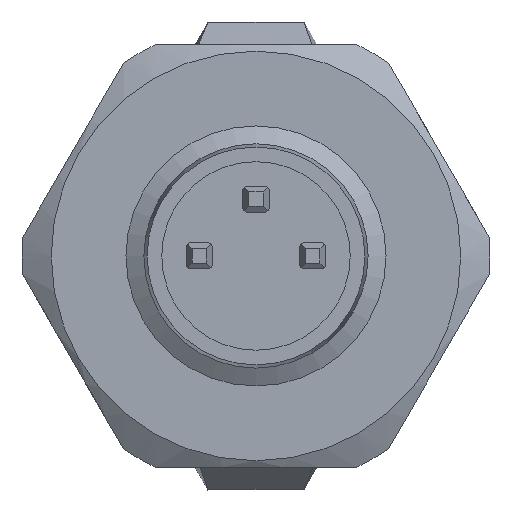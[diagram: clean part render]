
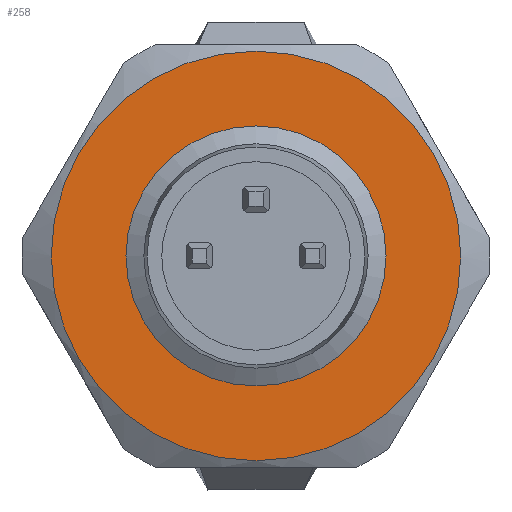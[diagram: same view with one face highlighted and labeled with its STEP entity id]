
A CAD part, left-side view. The second image highlights one B-rep face of the part: STEP entity #258.
In plain terms, the highlighted planar face has unit normal (-1, 0, 0) as drawn and (0, 1, 0) by its records, which use the part's own axes.
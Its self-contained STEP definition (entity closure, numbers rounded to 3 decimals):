
#258 = ADVANCED_FACE( '', ( #446, #447 ), #448, .T. );
#446 = FACE_BOUND( '', #642, .T. );
#447 = FACE_OUTER_BOUND( '', #643, .T. );
#448 = PLANE( '', #644 );
#642 = EDGE_LOOP( '', ( #1224 ) );
#643 = EDGE_LOOP( '', ( #1225 ) );
#644 = AXIS2_PLACEMENT_3D( '', #1226, #1227, #1228 );
#1224 = ORIENTED_EDGE( '', *, *, #1418, .T. );
#1225 = ORIENTED_EDGE( '', *, *, #1392, .F. );
#1226 = CARTESIAN_POINT( '', ( 0., 2., 0. ) );
#1227 = DIRECTION( '', ( 0., 1., 0. ) );
#1228 = DIRECTION( '', ( 0., 0., 1. ) );
#1392 = EDGE_CURVE( '', #1672, #1672, #1673, .T. );
#1418 = EDGE_CURVE( '', #1712, #1712, #1713, .F. );
#1672 = VERTEX_POINT( '', #2264 );
#1673 = CIRCLE( '', #2265, 6.3 );
#1712 = VERTEX_POINT( '', #2384 );
#1713 = CIRCLE( '', #2385, 3.959 );
#2264 = CARTESIAN_POINT( '', ( 0., 2., -6.3 ) );
#2265 = AXIS2_PLACEMENT_3D( '', #2641, #2642, #2643 );
#2384 = CARTESIAN_POINT( '', ( 0., 2., 3.959 ) );
#2385 = AXIS2_PLACEMENT_3D( '', #2677, #2678, #2679 );
#2641 = CARTESIAN_POINT( '', ( 0., 2., 0. ) );
#2642 = DIRECTION( '', ( 0., -1., 0. ) );
#2643 = DIRECTION( '', ( 0., 0., -1. ) );
#2677 = CARTESIAN_POINT( '', ( 0., 2., 0. ) );
#2678 = DIRECTION( '', ( 0., 1., 0. ) );
#2679 = DIRECTION( '', ( 0., 0., 1. ) );
